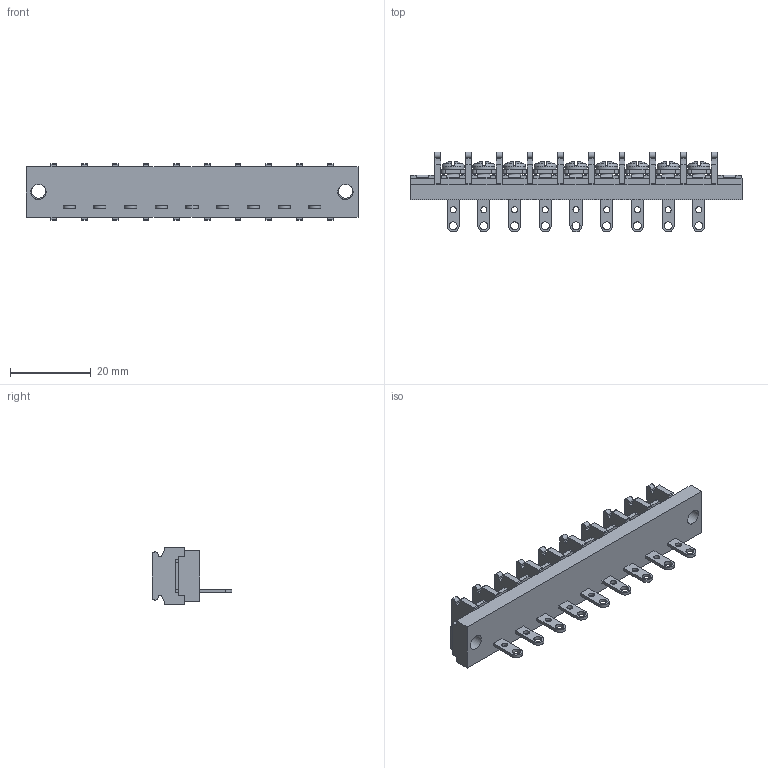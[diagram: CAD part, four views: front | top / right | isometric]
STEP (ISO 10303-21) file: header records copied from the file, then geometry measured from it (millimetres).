
FILE_DESCRIPTION(/* description */ ('Alibre Inc.'),/* implementation_level */ '2;1');
FILE_NAME(/* name */ 'export0',/* time_stamp */ '2015-10-23T20:02:54+09:00',/* author */ (''),/* organization */ (''),/* preprocessor_version */ 'ST-DEVELOPER v14',/* originating_system */ 'Alibre',/* authorisation */ '');
FILE_SCHEMA (('CONFIG_CONTROL_DESIGN'));
Length unit declared in the file: centimetre
Products named in the file (1): ID_1
Bounding box: 82.4 x 19.8 x 14 mm (x, y, z)
Volume: 7461.8 mm3; surface area: 7345.4 mm2
Topology: 1 solids, 17 shells, 1496 faces, 4087 edges, 2683 vertices
Faces by surface type: plane 1144, cylinder 176, bspline 104, cone 36, torus 18, sphere 18
Full cylindrical faces by diameter (mm): 1.5 x9, 2 x9, 3 x9, 3.5 x2, 3.8 x2, 5.5 x9
Entity records: 44920 total; most frequent: CARTESIAN_POINT 9698, ORIENTED_EDGE 7978, DIRECTION 5681, EDGE_CURVE 3989, VECTOR 2876, LINE 2876, VERTEX_POINT 2643, AXIS2_PLACEMENT_3D 1923
